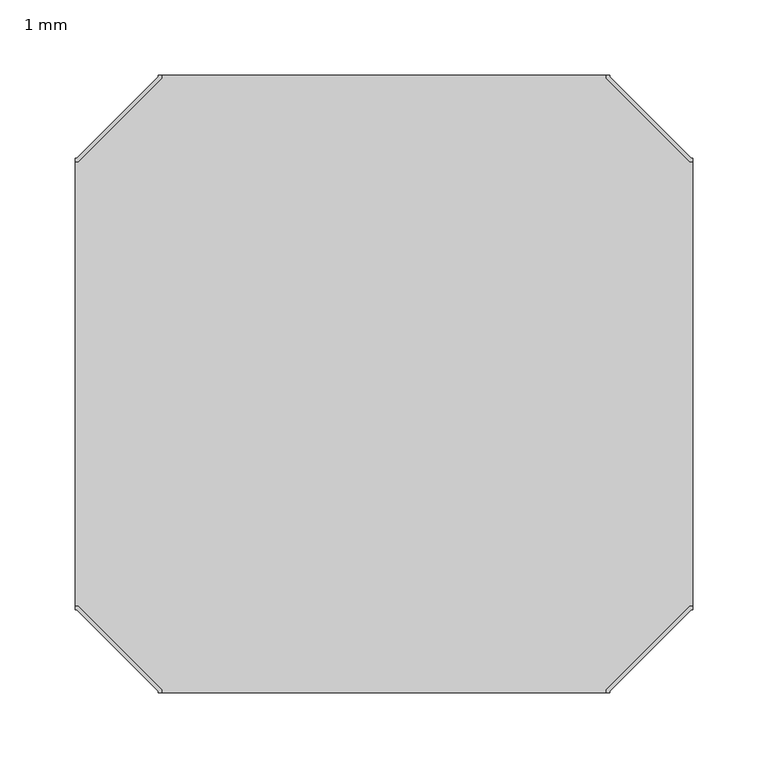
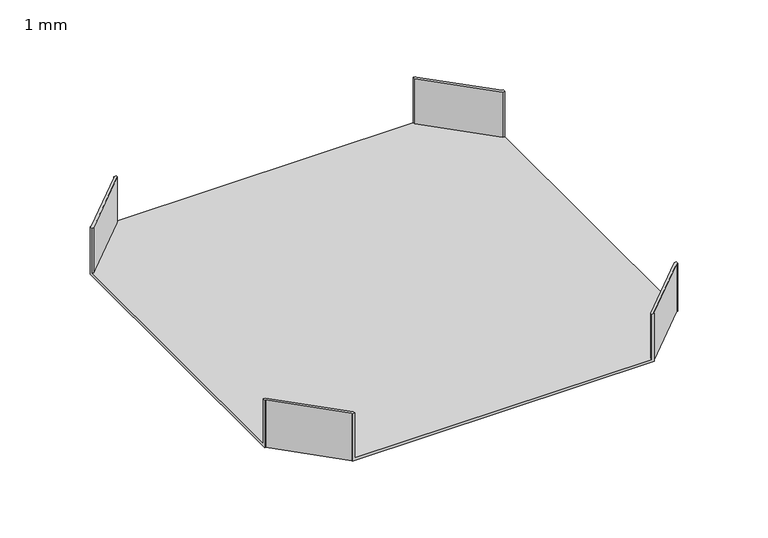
"""IFC4 building model written with IfcOpenShell, lengths in millimetres: cable carrier fitting geometry, BAKS_Czwórnik_koryta : 1 mm."""

from ifc_helpers import new_model, si_unit, origin, place, context, project, spatial, faceted_brep, source, transform, mapped, element, save


def cable_carrier_fitting_1_mm_9e79036f(model_context):
    return source(origin(), model_context, "Body", "Brep", [
        faceted_brep([(-147.46, -202.9478976, 25.0), (-202.9478976, -147.46, 25.0), (-205.0, -147.46, 25.0), (-205.0, -150.0, 25.0), (-204.0, -150.0, 25.0), (-150.0, -204.0, 25.0), (-150.0, -205.0, 25.0), (-147.46, -205.0, 25.0), (147.46, -202.9478976, 25.0), (147.46, -205.0, 25.0), (150.0, -205.0, 25.0), (150.0, -204.0, 25.0), (204.0, -150.0, 25.0), (205.0, -150.0, 25.0), (205.0, -147.46, 25.0), (202.9478976, -147.46, 25.0), (-147.46, 202.9478976, 25.0), (-147.46, 205.0, 25.0), (-150.0, 205.0, 25.0), (-150.0, 204.0, 25.0), (-204.0, 150.0, 25.0), (-205.0, 150.0, 25.0), (-205.0, 147.46, 25.0), (-202.9478976, 147.46, 25.0), (147.46, 202.9478976, 25.0), (202.9478976, 147.46, 25.0), (205.0, 147.46, 25.0), (205.0, 150.0, 25.0), (204.0, 150.0, 25.0), (150.0, 204.0, 25.0), (150.0, 205.0, 25.0), (147.46, 205.0, 25.0), (-150.0, -205.0, -25.0), (-150.0, -204.0, -25.0), (-204.0, -150.0, -25.0), (-205.0, -150.0, -25.0), (-205.0, 150.0, -25.0), (-204.0, 150.0, -25.0), (-150.0, 204.0, -25.0), (-150.0, 205.0, -25.0), (150.0, 205.0, -25.0), (150.0, 204.0, -25.0), (204.0, 150.0, -25.0), (205.0, 150.0, -25.0), (205.0, -150.0, -25.0), (204.0, -150.0, -25.0), (150.0, -204.0, -25.0), (150.0, -205.0, -25.0), (-147.46, -202.9478976, -22.46), (-202.9478976, -147.46, -22.46), (-205.0, -147.46, -22.46), (-205.0, 147.46, -22.46), (-204.0, -150.0, -22.46), (-150.0, -204.0, -22.46), (147.46, -205.0, -22.46), (-147.46, -205.0, -22.46), (150.0, -204.0, -22.46), (204.0, -150.0, -22.46), (205.0, 147.46, -22.46), (205.0, -147.46, -22.46), (202.9478976, -147.46, -22.46), (147.46, -202.9478976, -22.46), (-147.46, 202.9478976, -22.46), (-147.46, 205.0, -22.46), (147.46, 205.0, -22.46), (-150.0, 204.0, -22.46), (-204.0, 150.0, -22.46), (-202.9478976, 147.46, -22.46), (147.46, 202.9478976, -22.46), (202.9478976, 147.46, -22.46), (204.0, 150.0, -22.46), (150.0, 204.0, -22.46)], [[[0, 1, 2, 3, 4, 5, 6, 7]], [[8, 9, 10, 11, 12, 13, 14, 15]], [[16, 17, 18, 19, 20, 21, 22, 23]], [[24, 25, 26, 27, 28, 29, 30, 31]], [[32, 33, 34, 35, 36, 37, 38, 39, 40, 41, 42, 43, 44, 45, 46, 47]], [[1, 0, 48, 49]], [[2, 1, 49, 50]], [[3, 2, 50, 51, 22, 21, 36, 35]], [[4, 3, 35, 34, 52]], [[5, 4, 52, 34, 33, 53]], [[32, 6, 5, 53, 33]], [[7, 6, 32, 47, 10, 9, 54, 55]], [[0, 7, 55, 48]], [[12, 11, 56, 46, 45, 57]], [[44, 13, 12, 57, 45]], [[14, 13, 44, 43, 27, 26, 58, 59]], [[15, 14, 59, 60]], [[8, 15, 60, 61]], [[9, 8, 61, 54]], [[11, 10, 47, 46, 56]], [[17, 16, 62, 63]], [[18, 17, 63, 64, 31, 30, 40, 39]], [[19, 18, 39, 38, 65]], [[20, 19, 65, 38, 37, 66]], [[36, 21, 20, 66, 37]], [[23, 22, 51, 67]], [[16, 23, 67, 62]], [[25, 24, 68, 69]], [[26, 25, 69, 58]], [[28, 27, 43, 42, 70]], [[29, 28, 70, 42, 41, 71]], [[40, 30, 29, 71, 41]], [[24, 31, 64, 68]], [[55, 54, 61, 60, 59, 58, 69, 68, 64, 63, 62, 67, 51, 50, 49, 48]]]),
    ])


if __name__ == "__main__":
    model = new_model("IFC4")
    model_context = context("Model", 3, world=origin())
    ifc_project = project(units=[si_unit("LENGTHUNIT", "METRE", prefix="MILLI")], contexts=[model_context])
    site = spatial("IfcSite", under=ifc_project)
    building = spatial("IfcBuilding", under=site)
    placement = place(None, origin())
    cable_carrier_fitting_1_mm_shape = cable_carrier_fitting_1_mm_9e79036f(model_context)
    element("IfcCableCarrierFitting", 1, ObjectType="BAKS_Czwórnik_koryta : 1 mm", at=placement, inside=building, context=model_context, shape_type="MappedRepresentation", body=[
        mapped(cable_carrier_fitting_1_mm_shape, transform((0.0, 0.0, 0.0), x_axis=(1.0, 0.0, 0.0), y_axis=(0.0, 1.0, 0.0), z_axis=(0.0, 0.0, 1.0))),
    ])
    save(model, "model.ifc")
